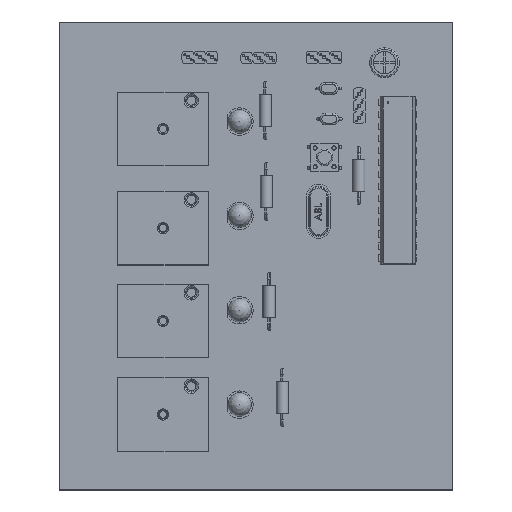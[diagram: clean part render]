
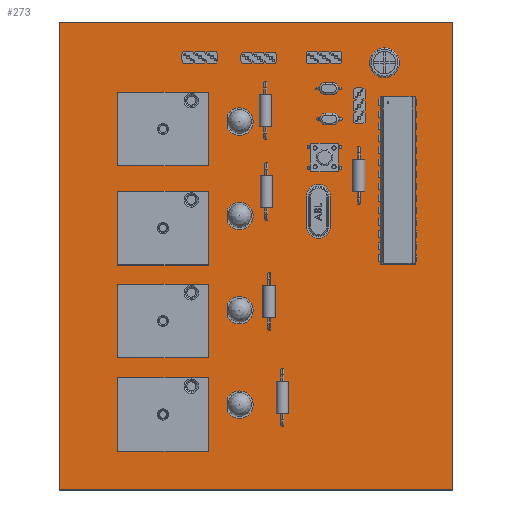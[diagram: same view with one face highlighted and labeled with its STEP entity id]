
A CAD part, top view. The second image highlights one B-rep face of the part: STEP entity #273.
In plain terms, the highlighted planar face has unit normal (0, 0, 1).
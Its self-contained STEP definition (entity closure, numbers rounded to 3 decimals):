
#144 = VERTEX_POINT('',#145);
#145 = CARTESIAN_POINT('',(0.,0.013,1.691));
#151 = EDGE_CURVE('',#144,#152,#154,.T.);
#152 = VERTEX_POINT('',#153);
#153 = CARTESIAN_POINT('',(83.427,0.013,1.691));
#154 = LINE('',#155,#156);
#155 = CARTESIAN_POINT('',(0.,0.013,1.691));
#156 = VECTOR('',#157,1.);
#157 = DIRECTION('',(1.,0.,0.));
#182 = EDGE_CURVE('',#152,#183,#185,.T.);
#183 = VERTEX_POINT('',#184);
#184 = CARTESIAN_POINT('',(83.427,99.2,1.691));
#185 = LINE('',#186,#187);
#186 = CARTESIAN_POINT('',(83.427,0.013,1.691));
#187 = VECTOR('',#188,1.);
#188 = DIRECTION('',(0.,1.,0.));
#213 = EDGE_CURVE('',#183,#214,#216,.T.);
#214 = VERTEX_POINT('',#215);
#215 = CARTESIAN_POINT('',(0.,99.2,1.691));
#216 = LINE('',#217,#218);
#217 = CARTESIAN_POINT('',(83.427,99.2,1.691));
#218 = VECTOR('',#219,1.);
#219 = DIRECTION('',(-1.,0.,0.));
#244 = EDGE_CURVE('',#214,#144,#245,.T.);
#245 = LINE('',#246,#247);
#246 = CARTESIAN_POINT('',(0.,99.2,1.691));
#247 = VECTOR('',#248,1.);
#248 = DIRECTION('',(0.,-1.,0.));
#273 = ADVANCED_FACE('',(#274),#280,.T.);
#274 = FACE_BOUND('',#275,.T.);
#275 = EDGE_LOOP('',(#276,#277,#278,#279));
#276 = ORIENTED_EDGE('',*,*,#151,.T.);
#277 = ORIENTED_EDGE('',*,*,#182,.T.);
#278 = ORIENTED_EDGE('',*,*,#213,.T.);
#279 = ORIENTED_EDGE('',*,*,#244,.T.);
#280 = PLANE('',#281);
#281 = AXIS2_PLACEMENT_3D('',#282,#283,#284);
#282 = CARTESIAN_POINT('',(41.714,49.607,1.691));
#283 = DIRECTION('',(0.,0.,1.));
#284 = DIRECTION('',(1.,0.,-0.));
